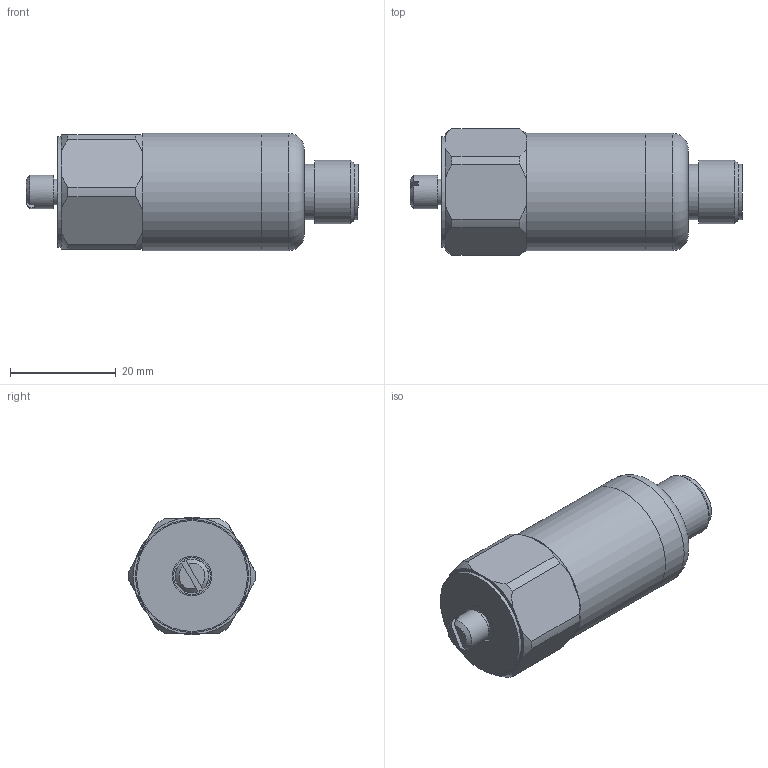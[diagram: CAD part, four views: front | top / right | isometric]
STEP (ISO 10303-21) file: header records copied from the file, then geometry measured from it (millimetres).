
FILE_DESCRIPTION(/* description */ (''),/* implementation_level */ '2;1');
FILE_NAME(/* name */ 'Z:\Engineering\Drawings\3D Library\Assemblies\Website\Premium Top\HS-150 Top M12\HS-150XXX5402.stp',/* time_stamp */ '2023-03-12T11:19:27+00:00',/* author */ ('Ricardo.Peneda'),/* organization */ (''),/* preprocessor_version */ 'ST-DEVELOPER v18.1',/* originating_system */ 'Autodesk Inventor 2021',/* authorisation */ '');
FILE_SCHEMA (('AUTOMOTIVE_DESIGN { 1 0 10303 214 3 1 1 }'));
Length unit declared in the file: inch
Products named in the file (1): HS-150XXX5402_Shrinkwrap_1
Bounding box: 62.89 x 23.99 x 22.2 mm (x, y, z)
Volume: 13167.2 mm3; surface area: 7481.8 mm2
Topology: 3 solids, 3 shells, 81 faces, 212 edges, 152 vertices
Faces by surface type: plane 41, cylinder 25, cone 14, torus 1
Full cylindrical faces by diameter (mm): 4.914 x2, 5.359 x1, 6.34 x2, 7.027 x1, 7.5 x1, 9.4 x2, 10.496 x1, 10.5 x1, 12 x1, 15.055 x1, 18 x1, 19.95 x1, 20 x1, 21 x1, 22.2 x2
Entity records: 2683 total; most frequent: CARTESIAN_POINT 509, DIRECTION 459, ORIENTED_EDGE 422, EDGE_CURVE 211, AXIS2_PLACEMENT_3D 198, VERTEX_POINT 152, CIRCLE 116, EDGE_LOOP 97
